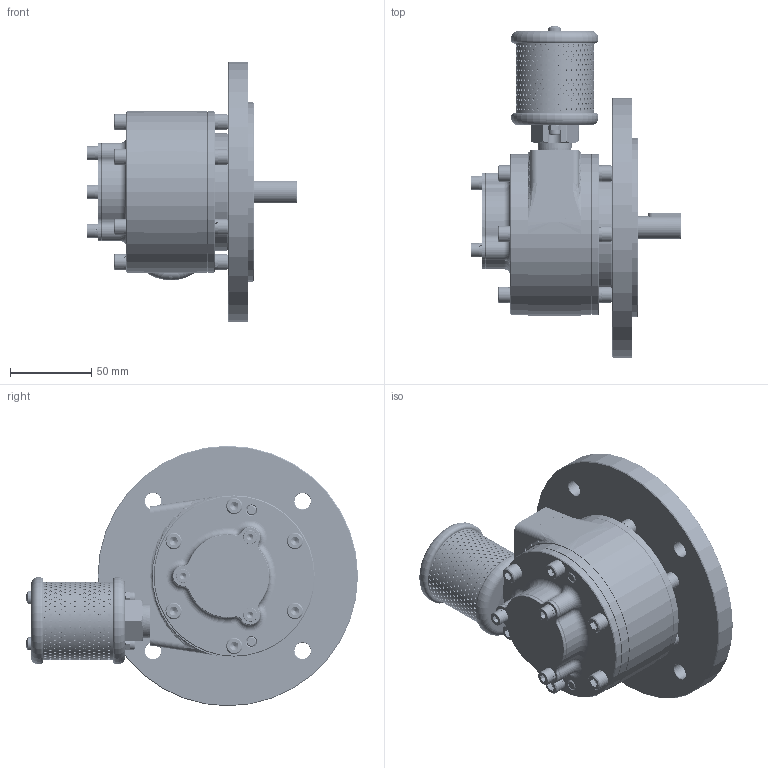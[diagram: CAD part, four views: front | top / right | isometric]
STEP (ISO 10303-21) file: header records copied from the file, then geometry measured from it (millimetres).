
FILE_DESCRIPTION (( 'STEP AP214' ), '1' );
FILE_NAME ('4VMD-SS (IEC).STEP', '2026-04-23T11:19:39', ( '' ), ( '' ), 'SwSTEP 2.0', 'SolidWorks 2017', '' );
FILE_SCHEMA (( 'AUTOMOTIVE_DESIGN' ));
Length unit declared in the file: millimetre
Products named in the file (2): 4VMD-SS (IEC)
Bounding box: 128.95 x 203.95 x 160 mm (x, y, z)
Volume: 626346.8 mm3; surface area: 226159.4 mm2
Topology: 69 solids, 69 shells, 4459 faces, 11785 edges, 7382 vertices
Faces by surface type: cylinder 2410, cone 1139, plane 719, torus 151, bspline 24, sphere 16
Entity records: 230652 total; most frequent: CARTESIAN_POINT 72919, ORIENTED_EDGE 23334, DIRECTION 20487, EDGE_CURVE 11667, AXIS2_PLACEMENT_3D 7994, VERTEX_POINT 7382, EDGE_LOOP 6133, LINE 4499
